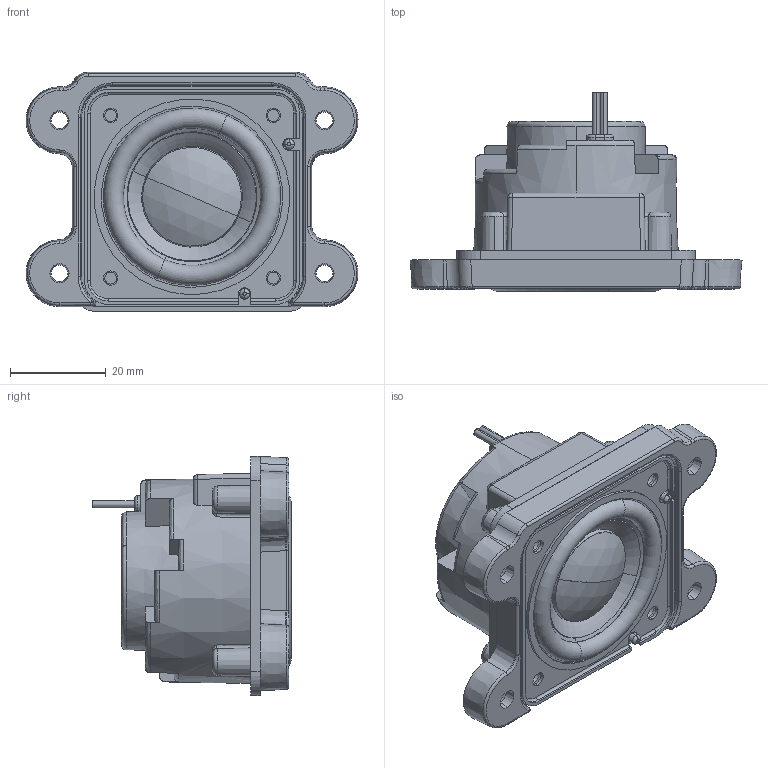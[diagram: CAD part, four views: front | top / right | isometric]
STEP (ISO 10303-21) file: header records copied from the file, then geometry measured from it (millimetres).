
FILE_DESCRIPTION (( 'STEP AP214' ), '1' );
FILE_NAME ('fullrange_Assy_210226.STEP', '2021-02-26T09:02:56', ( '' ), ( '' ), 'SwSTEP 2.0', 'SolidWorks 2019', '' );
FILE_SCHEMA (( 'AUTOMOTIVE_DESIGN' ));
Length unit declared in the file: millimetre
Products named in the file (9): Yoke; Frame_210226; GASKET_BACK_FR_UA300_7_1; TI-02-01; fullrange_Assy_210226; Cone Paper; GASKET_BACK_COVER_UA300_1_1; Harness_Bushing; COVER_BACK_FULLRANGE_UA300_15_1
Assembly tree (8 placements, depth 2):
  fullrange_Assy_210226
    Frame_210226
    Yoke
    Cone Paper
    TI-02-01
    COVER_BACK_FULLRANGE_UA300_15_1
    GASKET_BACK_COVER_UA300_1_1
    GASKET_BACK_FR_UA300_7_1
    Harness_Bushing
Bounding box: 69.43 x 41.5 x 50 mm (x, y, z)
Volume: 24502.7 mm3; surface area: 32325.1 mm2
Topology: 10 solids, 10 shells, 599 faces, 1561 edges, 995 vertices
Faces by surface type: plane 206, cylinder 200, cone 69, bspline 63, torus 57, sphere 4
Entity records: 22156 total; most frequent: CARTESIAN_POINT 7245, ORIENTED_EDGE 3096, DIRECTION 2985, EDGE_CURVE 1548, AXIS2_PLACEMENT_3D 1190, VERTEX_POINT 993, EDGE_LOOP 683, CIRCLE 643
